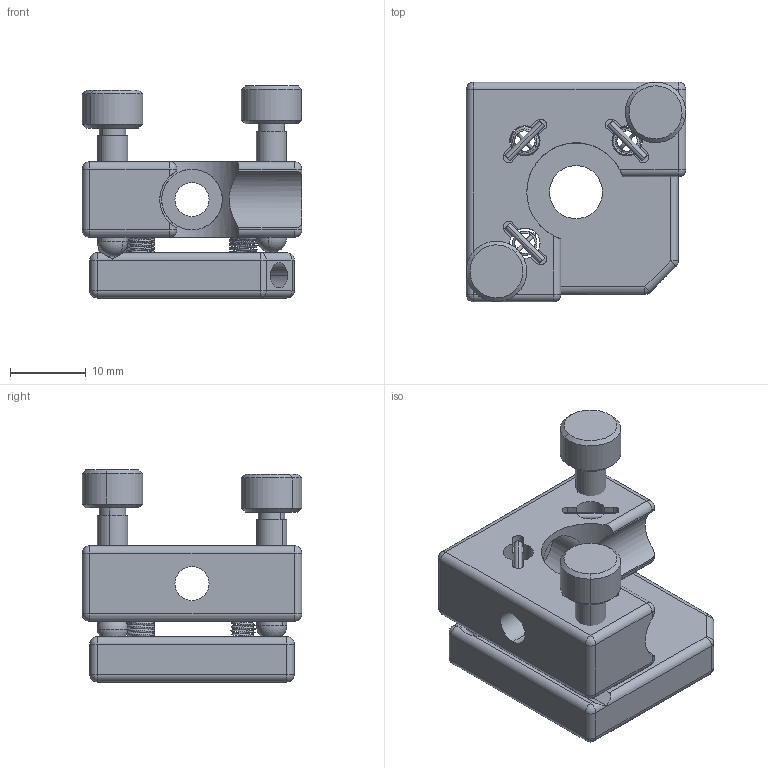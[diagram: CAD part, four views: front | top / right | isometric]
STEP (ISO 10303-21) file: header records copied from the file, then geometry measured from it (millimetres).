
FILE_DESCRIPTION (( 'STEP AP203' ), '1' );
FILE_NAME ('7MM0708謗峎覃淕噩殤.STEP', '2019-10-17T09:03:04', ( '' ), ( '' ), 'SwSTEP 2.0', 'SolidWorks 2014', '' );
FILE_SCHEMA (( 'CONFIG_CONTROL_DESIGN' ));
Length unit declared in the file: millimetre
Products named in the file (1): 7MM0708謗峎覃淕噩殤
Bounding box: 29 x 29 x 28 mm (x, y, z)
Surface area: 6507.6 mm2 (no closed solid volume)
Topology: 0 solids, 23 shells, 234 faces, 644 edges, 400 vertices
Faces by surface type: cylinder 113, plane 67, sphere 26, cone 16, bspline 12
Entity records: 13109 total; most frequent: CARTESIAN_POINT 7204, DIRECTION 1303, ORIENTED_EDGE 1121, EDGE_CURVE 611, AXIS2_PLACEMENT_3D 517, VERTEX_POINT 397, CIRCLE 294, LINE 269
